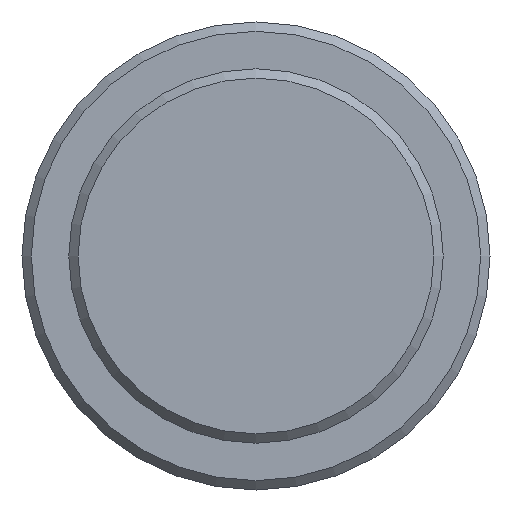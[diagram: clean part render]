
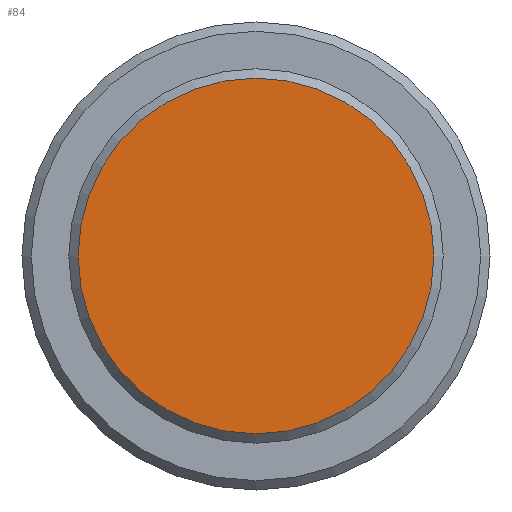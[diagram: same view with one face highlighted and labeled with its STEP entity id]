
A CAD part, front view. The second image highlights one B-rep face of the part: STEP entity #84.
In plain terms, the highlighted planar face has unit normal (0, -1, 0).
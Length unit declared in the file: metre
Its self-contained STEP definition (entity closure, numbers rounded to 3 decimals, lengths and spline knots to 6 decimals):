
#84 = ADVANCED_FACE( '', ( #120 ), #121, .T. );
#120 = FACE_OUTER_BOUND( '', #181, .T. );
#121 = PLANE( '', #182 );
#181 = EDGE_LOOP( '', ( #256 ) );
#182 = AXIS2_PLACEMENT_3D( '', #257, #258, #259 );
#256 = ORIENTED_EDGE( '', *, *, #333, .T. );
#257 = CARTESIAN_POINT( '', ( 0., -0.009, 0. ) );
#258 = DIRECTION( '', ( 0., -1., 0. ) );
#259 = DIRECTION( '', ( 0., 0., -1. ) );
#333 = EDGE_CURVE( '', #361, #361, #362, .T. );
#361 = VERTEX_POINT( '', #401 );
#362 = CIRCLE( '', #402, 0.0095 );
#401 = CARTESIAN_POINT( '', ( 0., -0.009, -0.0095 ) );
#402 = AXIS2_PLACEMENT_3D( '', #449, #450, #451 );
#449 = CARTESIAN_POINT( '', ( 0., -0.009, 0. ) );
#450 = DIRECTION( '', ( 0., -1., 0. ) );
#451 = DIRECTION( '', ( 0., 0., -1. ) );
